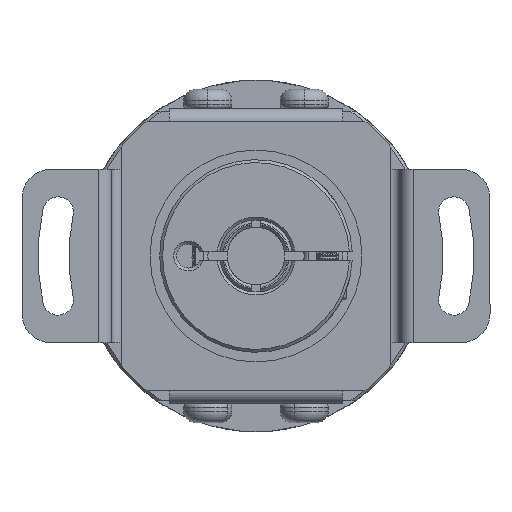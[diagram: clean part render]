
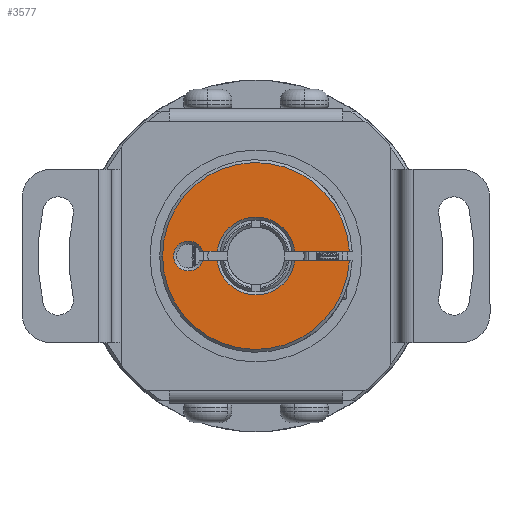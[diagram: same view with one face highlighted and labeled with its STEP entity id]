
A CAD part, left-side view. The second image highlights one B-rep face of the part: STEP entity #3577.
In plain terms, the highlighted planar face has unit normal (-1, 0, 0).
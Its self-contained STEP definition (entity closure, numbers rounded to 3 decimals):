
#3444 = EDGE_CURVE ( 'NONE', #3445, #3446, #14871, .T. ) ;
#3445 = VERTEX_POINT ( 'NONE', #14947 ) ;
#3446 = VERTEX_POINT ( 'NONE', #14944 ) ;
#3558 = VERTEX_POINT ( 'NONE', #15490 ) ;
#3559 = ORIENTED_EDGE ( 'NONE', *, *, #3560, .F. ) ;
#3560 = EDGE_CURVE ( 'NONE', #3561, #3558, #15474, .T. ) ;
#3561 = VERTEX_POINT ( 'NONE', #15469 ) ;
#3562 = ORIENTED_EDGE ( 'NONE', *, *, #3563, .T. ) ;
#3563 = EDGE_CURVE ( 'NONE', #3561, #3587, #15462, .T. ) ;
#3564 = ORIENTED_EDGE ( 'NONE', *, *, #3585, .F. ) ;
#3565 = ORIENTED_EDGE ( 'NONE', *, *, #3566, .T. ) ;
#3566 = EDGE_CURVE ( 'NONE', #3586, #3445, #15451, .T. ) ;
#3567 = ORIENTED_EDGE ( 'NONE', *, *, #3444, .T. ) ;
#3568 = ORIENTED_EDGE ( 'NONE', *, *, #3569, .F. ) ;
#3569 = EDGE_CURVE ( 'NONE', #3629, #3446, #15444, .T. ) ;
#3577 = ADVANCED_FACE ( 'NONE', ( #15526 ), #15514, .T. ) ;
#3578 = EDGE_LOOP ( 'NONE', ( #3579, #3583, #3559, #3562, #3564, #3565, #3567, #3568, #3630 ) ) ;
#3579 = ORIENTED_EDGE ( 'NONE', *, *, #3580, .F. ) ;
#3580 = EDGE_CURVE ( 'NONE', #3581, #3582, #15506, .T. ) ;
#3581 = VERTEX_POINT ( 'NONE', #15498 ) ;
#3582 = VERTEX_POINT ( 'NONE', #15497 ) ;
#3583 = ORIENTED_EDGE ( 'NONE', *, *, #3584, .T. ) ;
#3584 = EDGE_CURVE ( 'NONE', #3581, #3558, #15496, .T. ) ;
#3585 = EDGE_CURVE ( 'NONE', #3586, #3587, #15601, .T. ) ;
#3586 = VERTEX_POINT ( 'NONE', #15597 ) ;
#3587 = VERTEX_POINT ( 'NONE', #15596 ) ;
#3629 = VERTEX_POINT ( 'NONE', #15771 ) ;
#3630 = ORIENTED_EDGE ( 'NONE', *, *, #3631, .T. ) ;
#3631 = EDGE_CURVE ( 'NONE', #3629, #3582, #15759, .T. ) ;
#14871 = CIRCLE ( 'NONE', #14953, 9.7 ) ;
#14879 = CARTESIAN_POINT ( 'NONE',  ( -7.5, 0., 0. ) ) ;
#14944 = CARTESIAN_POINT ( 'NONE',  ( -7.5, -9.687, -0.5 ) ) ;
#14947 = CARTESIAN_POINT ( 'NONE',  ( -7.5, 9.7, 0. ) ) ;
#14950 = DIRECTION ( 'NONE',  ( 0., -1., 0. ) ) ;
#14952 = DIRECTION ( 'NONE',  ( -1., 0., 0. ) ) ;
#14953 = AXIS2_PLACEMENT_3D ( 'NONE', #14879, #14952, #14950 ) ;
#15439 = DIRECTION ( 'NONE',  ( 0., -1., 0. ) ) ;
#15440 = VECTOR ( 'NONE', #15439, 1000. ) ;
#15442 = CARTESIAN_POINT ( 'NONE',  ( -7.5, 6.96, -0.5 ) ) ;
#15444 = LINE ( 'NONE', #15442, #15440 ) ;
#15448 = DIRECTION ( 'NONE',  ( 0., -1., 0. ) ) ;
#15449 = DIRECTION ( 'NONE',  ( -1., 0., 0. ) ) ;
#15450 = AXIS2_PLACEMENT_3D ( 'NONE', #15464, #15449, #15448 ) ;
#15451 = CIRCLE ( 'NONE', #15450, 9.7 ) ;
#15458 = DIRECTION ( 'NONE',  ( 0., -1., 0. ) ) ;
#15459 = DIRECTION ( 'NONE',  ( 1., 0., 0. ) ) ;
#15460 = CARTESIAN_POINT ( 'NONE',  ( -7.5, 0., 0. ) ) ;
#15461 = AXIS2_PLACEMENT_3D ( 'NONE', #15460, #15459, #15458 ) ;
#15462 = CIRCLE ( 'NONE', #15461, 4.05 ) ;
#15464 = CARTESIAN_POINT ( 'NONE',  ( -7.5, 0., 0. ) ) ;
#15469 = CARTESIAN_POINT ( 'NONE',  ( -7.5, 4.019, 0.5 ) ) ;
#15470 = DIRECTION ( 'NONE',  ( 0., 1., 0. ) ) ;
#15471 = VECTOR ( 'NONE', #15470, 1000. ) ;
#15473 = CARTESIAN_POINT ( 'NONE',  ( -7.5, 6.96, 0.5 ) ) ;
#15474 = LINE ( 'NONE', #15473, #15471 ) ;
#15490 = CARTESIAN_POINT ( 'NONE',  ( -7.5, 5.533, 0.5 ) ) ;
#15496 = CIRCLE ( 'NONE', #15609, 1.55 ) ;
#15497 = CARTESIAN_POINT ( 'NONE',  ( -7.5, 4.019, -0.5 ) ) ;
#15498 = CARTESIAN_POINT ( 'NONE',  ( -7.5, 5.533, -0.5 ) ) ;
#15500 = DIRECTION ( 'NONE',  ( 0., -1., 0. ) ) ;
#15502 = VECTOR ( 'NONE', #15500, 1000. ) ;
#15504 = CARTESIAN_POINT ( 'NONE',  ( -7.5, 6.96, -0.5 ) ) ;
#15506 = LINE ( 'NONE', #15504, #15502 ) ;
#15509 = DIRECTION ( 'NONE',  ( 0., -1., 0. ) ) ;
#15510 = DIRECTION ( 'NONE',  ( -1., 0., 0. ) ) ;
#15511 = CARTESIAN_POINT ( 'NONE',  ( -7.5, 0., 0. ) ) ;
#15512 = AXIS2_PLACEMENT_3D ( 'NONE', #15511, #15510, #15509 ) ;
#15514 = PLANE ( 'NONE',  #15512 ) ;
#15526 = FACE_OUTER_BOUND ( 'NONE', #3578, .T. ) ;
#15596 = CARTESIAN_POINT ( 'NONE',  ( -7.5, -4.019, 0.5 ) ) ;
#15597 = CARTESIAN_POINT ( 'NONE',  ( -7.5, -9.687, 0.5 ) ) ;
#15598 = DIRECTION ( 'NONE',  ( 0., 1., 0. ) ) ;
#15599 = VECTOR ( 'NONE', #15598, 1000. ) ;
#15600 = CARTESIAN_POINT ( 'NONE',  ( -7.5, 6.96, 0.5 ) ) ;
#15601 = LINE ( 'NONE', #15600, #15599 ) ;
#15605 = DIRECTION ( 'NONE',  ( 0., -1., 0. ) ) ;
#15606 = DIRECTION ( 'NONE',  ( 1., 0., 0. ) ) ;
#15608 = CARTESIAN_POINT ( 'NONE',  ( -7.5, 7., 0. ) ) ;
#15609 = AXIS2_PLACEMENT_3D ( 'NONE', #15608, #15606, #15605 ) ;
#15753 = DIRECTION ( 'NONE',  ( 0., -1., 0. ) ) ;
#15756 = DIRECTION ( 'NONE',  ( 1., 0., 0. ) ) ;
#15757 = CARTESIAN_POINT ( 'NONE',  ( -7.5, 0., 0. ) ) ;
#15758 = AXIS2_PLACEMENT_3D ( 'NONE', #15757, #15756, #15753 ) ;
#15759 = CIRCLE ( 'NONE', #15758, 4.05 ) ;
#15771 = CARTESIAN_POINT ( 'NONE',  ( -7.5, -4.019, -0.5 ) ) ;
